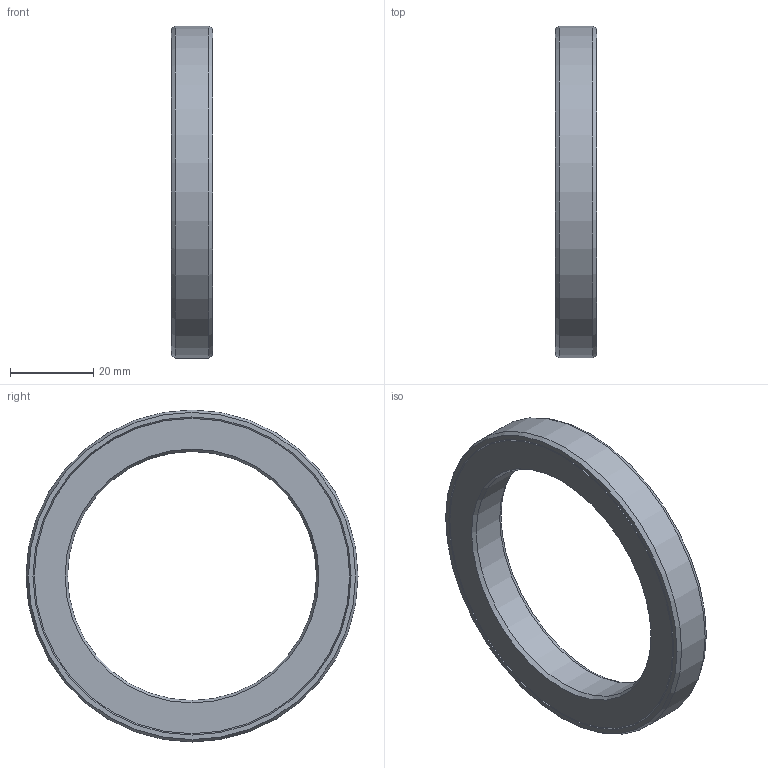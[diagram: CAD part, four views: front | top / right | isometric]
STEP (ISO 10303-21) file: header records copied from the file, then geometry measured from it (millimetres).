
FILE_DESCRIPTION(/* description */ (''),/* implementation_level */ '2;1');
FILE_NAME(/* name */ '301230 L 60x80x10.stp',/* time_stamp */ '2016-12-15T09:33:07+01:00',/* author */ (''),/* organization */ (''),/* preprocessor_version */ 'ST-DEVELOPER v15',/* originating_system */ 'SIEMENS PLM Software NX 8.5',/* authorisation */ '');
FILE_SCHEMA (('CONFIG_CONTROL_DESIGN'));
Length unit declared in the file: millimetre
Products named in the file (1): ATE0000122_01
Bounding box: 10 x 80 x 80 mm (x, y, z)
Volume: 20904.5 mm3; surface area: 13823.3 mm2
Topology: 2 solids, 2 shells, 18 faces, 34 edges, 20 vertices
Faces by surface type: cone 12, plane 4, cylinder 2
Full cylindrical faces by diameter (mm): 60 x1, 80 x1
Entity records: 454 total; most frequent: DIRECTION 74, CARTESIAN_POINT 55, AXIS2_PLACEMENT_3D 37, FACE_BOUND 36, EDGE_LOOP 36, ORIENTED_EDGE 36, ADVANCED_FACE 18, VERTEX_POINT 18
